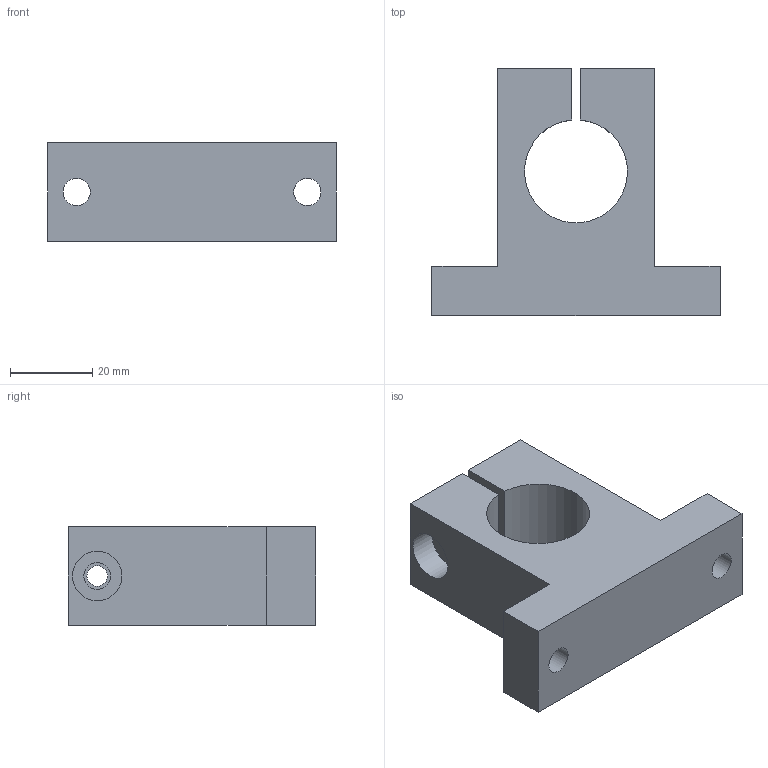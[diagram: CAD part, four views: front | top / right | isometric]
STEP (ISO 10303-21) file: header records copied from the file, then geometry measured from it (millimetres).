
FILE_DESCRIPTION(/* description */ ('Unknown'),/* implementation_level */ '2;1');
FILE_NAME(/* name */ 'SK25',/* time_stamp */ '2025-02-04T09:01:46+08:00',/* author */ ('Unknown'),/* organization */ ('Unknown'),/* preprocessor_version */ 'ST-DEVELOPER v18.102',/* originating_system */ 'Solid Edge',/* authorisation */ 'Unknown');
FILE_SCHEMA (('AUTOMOTIVE_DESIGN {1 0 10303 214 3 1 1}'));
Length unit declared in the file: millimetre
Products named in the file (1): SK25
Bounding box: 70 x 60 x 24 mm (x, y, z)
Volume: 49263.1 mm3; surface area: 13944.8 mm2
Topology: 1 solids, 1 shells, 20 faces, 51 edges, 34 vertices
Faces by surface type: plane 14, cylinder 6
Full cylindrical faces by diameter (mm): 5 x1, 6.5 x1, 6.6 x2, 12 x1
Entity records: 628 total; most frequent: CARTESIAN_POINT 101, DIRECTION 100, ORIENTED_EDGE 92, EDGE_CURVE 46, VERTEX_POINT 34, LINE 34, VECTOR 34, EDGE_LOOP 34
